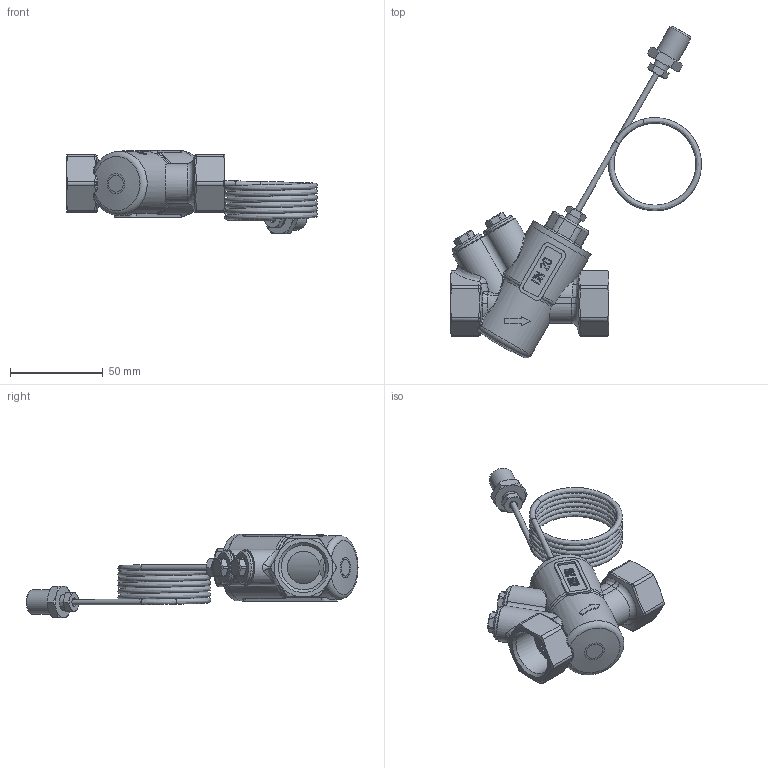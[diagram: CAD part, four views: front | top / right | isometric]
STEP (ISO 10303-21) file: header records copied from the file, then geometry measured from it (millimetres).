
FILE_DESCRIPTION(('STEP AP242'), '1');
FILE_NAME('VT.044.G.0520', '', ('UNSPECIFIED'), ('UNSPECIFIED'), 'C3D Converter', 'C3D Toolkit', '');
FILE_SCHEMA(('AP242_MANAGED_MODEL_BASED_3D_ENGINEERING_MIM_LF { 1 0 10303 442 1 1 4 }'));
Length unit declared in the file: millimetre
Products named in the file (1): ВР.493612.021.000 СБ
Bounding box: 134.88 x 178.55 x 45.1 mm (x, y, z)
Volume: 103104.9 mm3; surface area: 39346 mm2
Topology: 3 solids, 6 shells, 511 faces, 1253 edges, 783 vertices
Faces by surface type: plane 158, cylinder 111, bspline 79, cone 72, extrusion 63, torus 28
Full cylindrical faces by diameter (mm): 1.2 x2, 3 x3, 3.1 x2, 3.5 x2, 4.4 x2, 6 x1, 6.5 x2, 6.647 x1, 8 x5, 11.445 x2, 13.157 x3, 14 x2, 16.2 x2, 18 x2, 24.118 x2, 35.9 x1, 36 x1
Entity records: 30062 total; most frequent: CARTESIAN_POINT 19490, ORIENTED_EDGE 2352, DIRECTION 1722, EDGE_CURVE 1176, VERTEX_POINT 779, AXIS2_PLACEMENT_3D 637, EDGE_LOOP 619, B_SPLINE_CURVE_WITH_KNOTS 555
